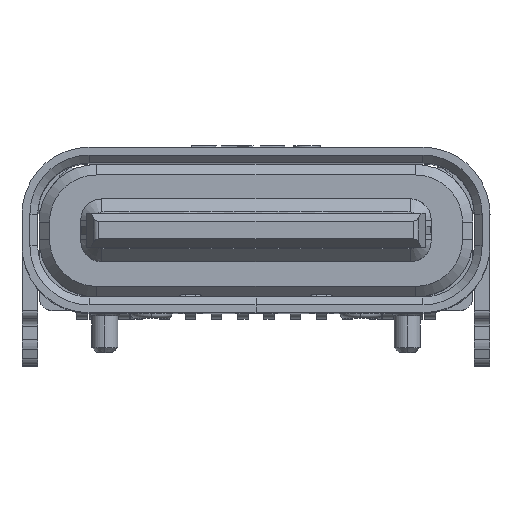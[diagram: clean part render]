
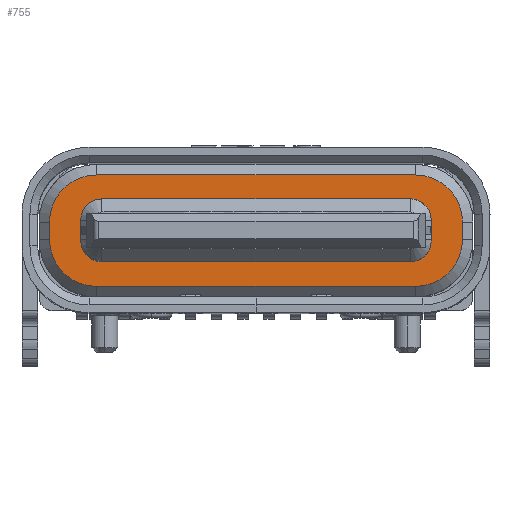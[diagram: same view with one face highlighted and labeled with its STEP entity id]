
A CAD part, top view. The second image highlights one B-rep face of the part: STEP entity #755.
In plain terms, the highlighted planar face has unit normal (0, 0, 1).
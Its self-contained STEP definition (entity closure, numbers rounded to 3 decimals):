
#608 = VERTEX_POINT ( 'NONE', #33665 ) ;
#755 = ADVANCED_FACE ( 'NONE', ( #9797, #17991 ), #5010, .F. ) ;
#765 = AXIS2_PLACEMENT_3D ( 'NONE', #14685, #17529, #25891 ) ;
#859 = VERTEX_POINT ( 'NONE', #15484 ) ;
#1002 = EDGE_CURVE ( 'NONE', #1485, #17316, #4571, .T. ) ;
#1157 = AXIS2_PLACEMENT_3D ( 'NONE', #22602, #25623, #25444 ) ;
#1365 = CARTESIAN_POINT ( 'NONE',  ( 7.515, 3.64, -4.85 ) ) ;
#1407 = LINE ( 'NONE', #14771, #4568 ) ;
#1485 = VERTEX_POINT ( 'NONE', #23544 ) ;
#1623 = ORIENTED_EDGE ( 'NONE', *, *, #10278, .F. ) ;
#2171 = DIRECTION ( 'NONE',  ( 1., 0., 0. ) ) ;
#2226 = CARTESIAN_POINT ( 'NONE',  ( 0.525, 2.41, -4.85 ) ) ;
#2256 = VERTEX_POINT ( 'NONE', #29157 ) ;
#2289 = ORIENTED_EDGE ( 'NONE', *, *, #15228, .T. ) ;
#2650 = VECTOR ( 'NONE', #19666, 1000. ) ;
#3037 = CIRCLE ( 'NONE', #765, 0.4 ) ;
#3184 = EDGE_CURVE ( 'NONE', #16578, #6773, #1407, .T. ) ;
#3364 = LINE ( 'NONE', #11505, #4253 ) ;
#3556 = DIRECTION ( 'NONE',  ( 1., 0., 0. ) ) ;
#3785 = AXIS2_PLACEMENT_3D ( 'NONE', #30069, #16884, #21703 ) ;
#4253 = VECTOR ( 'NONE', #20066, 1000. ) ;
#4568 = VECTOR ( 'NONE', #3556, 1000. ) ;
#4571 = CIRCLE ( 'NONE', #1157, 0.4 ) ;
#4912 = DIRECTION ( 'NONE',  ( 0., 1., 0. ) ) ;
#5010 = PLANE ( 'NONE',  #32408 ) ;
#5543 = CIRCLE ( 'NONE', #10076, 0.4 ) ;
#5872 = LINE ( 'NONE', #18878, #26015 ) ;
#6125 = VECTOR ( 'NONE', #2171, 1000. ) ;
#6356 = ORIENTED_EDGE ( 'NONE', *, *, #3184, .T. ) ;
#6571 = AXIS2_PLACEMENT_3D ( 'NONE', #18811, #32156, #34829 ) ;
#6773 = VERTEX_POINT ( 'NONE', #12906 ) ;
#7185 = ORIENTED_EDGE ( 'NONE', *, *, #27723, .F. ) ;
#7418 = DIRECTION ( 'NONE',  ( 0., 0., -1. ) ) ;
#7981 = ORIENTED_EDGE ( 'NONE', *, *, #19437, .F. ) ;
#8250 = LINE ( 'NONE', #2226, #17473 ) ;
#8469 = CARTESIAN_POINT ( 'NONE',  ( 8.415, 2.74, -4.85 ) ) ;
#8769 = DIRECTION ( 'NONE',  ( 1., 0., 0. ) ) ;
#8918 = ORIENTED_EDGE ( 'NONE', *, *, #13160, .F. ) ;
#9219 = EDGE_CURVE ( 'NONE', #2256, #17408, #5543, .T. ) ;
#9797 = FACE_OUTER_BOUND ( 'NONE', #34304, .T. ) ;
#10068 = CARTESIAN_POINT ( 'NONE',  ( 7.515, 2.74, -4.85 ) ) ;
#10076 = AXIS2_PLACEMENT_3D ( 'NONE', #30162, #15940, #24482 ) ;
#10250 = CARTESIAN_POINT ( 'NONE',  ( 7.415, 1.98, -4.85 ) ) ;
#10278 = EDGE_CURVE ( 'NONE', #24455, #18453, #14995, .T. ) ;
#11505 = CARTESIAN_POINT ( 'NONE',  ( 1.525, 3.18, -4.85 ) ) ;
#11927 = ORIENTED_EDGE ( 'NONE', *, *, #1002, .F. ) ;
#12760 = EDGE_CURVE ( 'NONE', #32241, #14415, #3037, .T. ) ;
#12906 = CARTESIAN_POINT ( 'NONE',  ( 7.515, 1.51, -4.85 ) ) ;
#13160 = EDGE_CURVE ( 'NONE', #33313, #608, #20303, .T. ) ;
#13375 = CIRCLE ( 'NONE', #6571, 0.9 ) ;
#13456 = AXIS2_PLACEMENT_3D ( 'NONE', #14643, #28693, #31196 ) ;
#13990 = EDGE_CURVE ( 'NONE', #15690, #33313, #8250, .T. ) ;
#14406 = CARTESIAN_POINT ( 'NONE',  ( 7.815, 2.38, -4.85 ) ) ;
#14415 = VERTEX_POINT ( 'NONE', #33110 ) ;
#14643 = CARTESIAN_POINT ( 'NONE',  ( 1.425, 2.74, -4.85 ) ) ;
#14685 = CARTESIAN_POINT ( 'NONE',  ( 1.525, 2.38, -4.85 ) ) ;
#14771 = CARTESIAN_POINT ( 'NONE',  ( 1.425, 1.51, -4.85 ) ) ;
#14975 = CARTESIAN_POINT ( 'NONE',  ( 7.815, 2.78, -4.85 ) ) ;
#14995 = CIRCLE ( 'NONE', #22966, 0.9 ) ;
#15228 = EDGE_CURVE ( 'NONE', #1485, #14415, #23429, .T. ) ;
#15484 = CARTESIAN_POINT ( 'NONE',  ( 7.415, 3.18, -4.85 ) ) ;
#15690 = VERTEX_POINT ( 'NONE', #18582 ) ;
#15857 = CARTESIAN_POINT ( 'NONE',  ( 1.063, 2.575, -4.85 ) ) ;
#15940 = DIRECTION ( 'NONE',  ( 0., 0., 1. ) ) ;
#16578 = VERTEX_POINT ( 'NONE', #33186 ) ;
#16750 = CIRCLE ( 'NONE', #17871, 0.4 ) ;
#16884 = DIRECTION ( 'NONE',  ( 0., 0., -1. ) ) ;
#17039 = VERTEX_POINT ( 'NONE', #14975 ) ;
#17247 = ORIENTED_EDGE ( 'NONE', *, *, #29562, .F. ) ;
#17316 = VERTEX_POINT ( 'NONE', #14406 ) ;
#17408 = VERTEX_POINT ( 'NONE', #32950 ) ;
#17473 = VECTOR ( 'NONE', #18396, 1000. ) ;
#17484 = VECTOR ( 'NONE', #31626, 1000. ) ;
#17529 = DIRECTION ( 'NONE',  ( 0., 0., 1. ) ) ;
#17653 = EDGE_LOOP ( 'NONE', ( #34972, #21320, #32216, #21100, #7185, #28087, #11927, #2289 ) ) ;
#17871 = AXIS2_PLACEMENT_3D ( 'NONE', #22299, #24989, #8769 ) ;
#17914 = CARTESIAN_POINT ( 'NONE',  ( 7.815, 2.38, -4.85 ) ) ;
#17987 = EDGE_CURVE ( 'NONE', #31673, #6773, #13375, .T. ) ;
#17991 = FACE_BOUND ( 'NONE', #17653, .T. ) ;
#18396 = DIRECTION ( 'NONE',  ( 0., 1., 0. ) ) ;
#18453 = VERTEX_POINT ( 'NONE', #31837 ) ;
#18582 = CARTESIAN_POINT ( 'NONE',  ( 0.525, 2.41, -4.85 ) ) ;
#18706 = DIRECTION ( 'NONE',  ( 0., 0., -1. ) ) ;
#18811 = CARTESIAN_POINT ( 'NONE',  ( 7.515, 2.41, -4.85 ) ) ;
#18878 = CARTESIAN_POINT ( 'NONE',  ( 1.125, 2.38, -4.85 ) ) ;
#19118 = CIRCLE ( 'NONE', #3785, 0.9 ) ;
#19437 = EDGE_CURVE ( 'NONE', #16578, #15690, #19118, .T. ) ;
#19666 = DIRECTION ( 'NONE',  ( 0., -1., 0. ) ) ;
#20066 = DIRECTION ( 'NONE',  ( 1., 0., 0. ) ) ;
#20303 = CIRCLE ( 'NONE', #13456, 0.9 ) ;
#21100 = ORIENTED_EDGE ( 'NONE', *, *, #25464, .T. ) ;
#21195 = LINE ( 'NONE', #26556, #6125 ) ;
#21253 = VECTOR ( 'NONE', #34282, 1000. ) ;
#21320 = ORIENTED_EDGE ( 'NONE', *, *, #29686, .T. ) ;
#21703 = DIRECTION ( 'NONE',  ( 0., -1., 0. ) ) ;
#22299 = CARTESIAN_POINT ( 'NONE',  ( 7.415, 2.78, -4.85 ) ) ;
#22602 = CARTESIAN_POINT ( 'NONE',  ( 7.415, 2.38, -4.85 ) ) ;
#22966 = AXIS2_PLACEMENT_3D ( 'NONE', #10068, #7418, #4912 ) ;
#23429 = LINE ( 'NONE', #10250, #21253 ) ;
#23544 = CARTESIAN_POINT ( 'NONE',  ( 7.415, 1.98, -4.85 ) ) ;
#24455 = VERTEX_POINT ( 'NONE', #1365 ) ;
#24482 = DIRECTION ( 'NONE',  ( 0., 1., 0. ) ) ;
#24989 = DIRECTION ( 'NONE',  ( 0., 0., 1. ) ) ;
#25444 = DIRECTION ( 'NONE',  ( 0., -1., 0. ) ) ;
#25464 = EDGE_CURVE ( 'NONE', #2256, #859, #3364, .T. ) ;
#25623 = DIRECTION ( 'NONE',  ( 0., 0., 1. ) ) ;
#25891 = DIRECTION ( 'NONE',  ( -1., 0., 0. ) ) ;
#26015 = VECTOR ( 'NONE', #32571, 1000. ) ;
#26556 = CARTESIAN_POINT ( 'NONE',  ( 1.425, 3.64, -4.85 ) ) ;
#27534 = ORIENTED_EDGE ( 'NONE', *, *, #34133, .F. ) ;
#27723 = EDGE_CURVE ( 'NONE', #17039, #859, #16750, .T. ) ;
#28087 = ORIENTED_EDGE ( 'NONE', *, *, #30400, .F. ) ;
#28693 = DIRECTION ( 'NONE',  ( 0., 0., -1. ) ) ;
#29144 = ORIENTED_EDGE ( 'NONE', *, *, #17987, .F. ) ;
#29157 = CARTESIAN_POINT ( 'NONE',  ( 1.525, 3.18, -4.85 ) ) ;
#29562 = EDGE_CURVE ( 'NONE', #18453, #31673, #33382, .T. ) ;
#29686 = EDGE_CURVE ( 'NONE', #32241, #17408, #5872, .T. ) ;
#30069 = CARTESIAN_POINT ( 'NONE',  ( 1.425, 2.41, -4.85 ) ) ;
#30162 = CARTESIAN_POINT ( 'NONE',  ( 1.525, 2.78, -4.85 ) ) ;
#30400 = EDGE_CURVE ( 'NONE', #17316, #17039, #31436, .T. ) ;
#31096 = ORIENTED_EDGE ( 'NONE', *, *, #13990, .F. ) ;
#31196 = DIRECTION ( 'NONE',  ( -1., 0., 0. ) ) ;
#31436 = LINE ( 'NONE', #17914, #17484 ) ;
#31626 = DIRECTION ( 'NONE',  ( 0., 1., 0. ) ) ;
#31673 = VERTEX_POINT ( 'NONE', #35013 ) ;
#31837 = CARTESIAN_POINT ( 'NONE',  ( 8.415, 2.74, -4.85 ) ) ;
#31994 = CARTESIAN_POINT ( 'NONE',  ( 0.525, 2.74, -4.85 ) ) ;
#32156 = DIRECTION ( 'NONE',  ( 0., 0., -1. ) ) ;
#32216 = ORIENTED_EDGE ( 'NONE', *, *, #9219, .F. ) ;
#32241 = VERTEX_POINT ( 'NONE', #32265 ) ;
#32265 = CARTESIAN_POINT ( 'NONE',  ( 1.125, 2.38, -4.85 ) ) ;
#32408 = AXIS2_PLACEMENT_3D ( 'NONE', #15857, #18706, #34201 ) ;
#32571 = DIRECTION ( 'NONE',  ( 0., 1., 0. ) ) ;
#32950 = CARTESIAN_POINT ( 'NONE',  ( 1.125, 2.78, -4.85 ) ) ;
#33110 = CARTESIAN_POINT ( 'NONE',  ( 1.525, 1.98, -4.85 ) ) ;
#33186 = CARTESIAN_POINT ( 'NONE',  ( 1.425, 1.51, -4.85 ) ) ;
#33313 = VERTEX_POINT ( 'NONE', #31994 ) ;
#33382 = LINE ( 'NONE', #8469, #2650 ) ;
#33665 = CARTESIAN_POINT ( 'NONE',  ( 1.425, 3.64, -4.85 ) ) ;
#34133 = EDGE_CURVE ( 'NONE', #608, #24455, #21195, .T. ) ;
#34201 = DIRECTION ( 'NONE',  ( -1., 0., 0. ) ) ;
#34282 = DIRECTION ( 'NONE',  ( -1., 0., 0. ) ) ;
#34304 = EDGE_LOOP ( 'NONE', ( #29144, #17247, #1623, #27534, #8918, #31096, #7981, #6356 ) ) ;
#34829 = DIRECTION ( 'NONE',  ( 1., 0., 0. ) ) ;
#34972 = ORIENTED_EDGE ( 'NONE', *, *, #12760, .F. ) ;
#35013 = CARTESIAN_POINT ( 'NONE',  ( 8.415, 2.41, -4.85 ) ) ;
